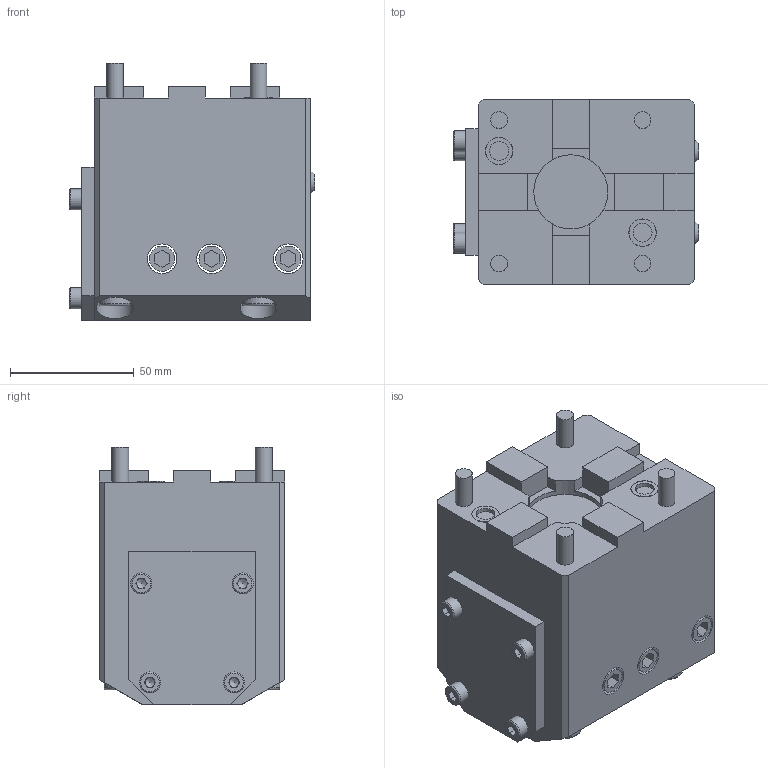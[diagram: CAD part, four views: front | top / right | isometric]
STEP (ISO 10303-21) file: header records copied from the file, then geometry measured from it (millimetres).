
FILE_DESCRIPTION(/* description */ (''),/* implementation_level */ '2;1');
FILE_NAME(/* name */ '197940-UNI',/* time_stamp */ '2021-12-10T09:41:47+01:00',/* author */ (''),/* organization */ (''),/* preprocessor_version */ 'ST-DEVELOPER v16.5',/* originating_system */ 'HiCAD 2017 2201.0 Build 268',/* authorisation */ '');
FILE_SCHEMA (('AUTOMOTIVE_DESIGN { 1 0 10303 214 1 1 1 1 }'));
Length unit declared in the file: millimetre
Products named in the file (2): Root; Teil
Assembly tree (1 placements, depth 2):
  Root
    Teil
Bounding box: 99.16 x 75 x 104 mm (x, y, z)
Volume: 511160 mm3; surface area: 66966.3 mm2
Topology: 7 solids, 7 shells, 300 faces, 698 edges, 447 vertices
Faces by surface type: plane 231, cylinder 44, cone 15, torus 8, sphere 2
Full cylindrical faces by diameter (mm): 6 x2, 6.8 x4, 7.65 x2, 8.5 x10, 10.2 x6, 11.01 x2, 11.1 x2, 12 x6, 13 x4, 15 x4, 30 x1, 32 x1
Entity records: 13951 total; most frequent: CARTESIAN_POINT 1512, DIRECTION 1342, PRESENTATION_STYLE_ASSIGNMENT 1189, COLOUR_RGB 1189, DRAUGHTING_PRE_DEFINED_CURVE_FONT 1188, CURVE_STYLE 1188, OVER_RIDING_STYLED_ITEM 1188, ORIENTED_EDGE 1188
